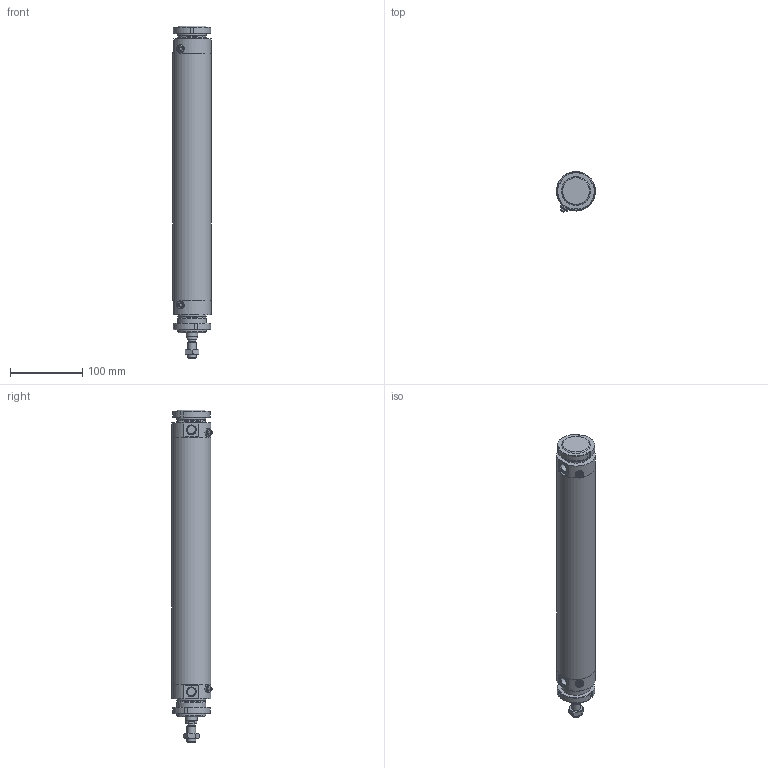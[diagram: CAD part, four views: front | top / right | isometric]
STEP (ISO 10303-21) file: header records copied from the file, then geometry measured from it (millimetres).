
FILE_DESCRIPTION(/* description */ (''),/* implementation_level */ '2;1');
FILE_NAME(/* name */ 'I:\Area Tecnica\Documenti\A-Manieri\_Inventor\12X\12X#C_###_####_#_#\12XBC_050_0300_#_#.stp',/* time_stamp */ '2015-04-28T15:44:02+02:00',/* author */ ('maniean1'),/* organization */ ('Pneumax S.p.A.'),/* preprocessor_version */ 'ST-DEVELOPER v15.2',/* originating_system */ 'Autodesk Inventor 2014',/* authorisation */ '');
FILE_SCHEMA (('AUTOMOTIVE_DESIGN { 1 0 10303 214 3 1 1 }'));
Length unit declared in the file: millimetre
Products named in the file (7): C1250_619-0300; 12X50_606; S12X50_0300; 12X_50_11; 12X50_621; G12X_050_05; 12XBC_050_0300_#_#
Bounding box: 54 x 55.88 x 460 mm (x, y, z)
Volume: 420468.9 mm3; surface area: 175121 mm2
Topology: 7 solids, 7 shells, 124 faces, 282 edges, 182 vertices
Faces by surface type: plane 64, cylinder 31, cone 27, torus 2
Full cylindrical faces by diameter (mm): 5 x2, 10.2 x1, 11 x2, 11.4 x2, 12 x2, 14 x1, 15.6 x1, 16 x1, 38.2 x2, 40 x6, 50 x2, 54 x3
Entity records: 2755 total; most frequent: CARTESIAN_POINT 553, DIRECTION 462, ORIENTED_EDGE 356, AXIS2_PLACEMENT_3D 197, EDGE_CURVE 178, EDGE_LOOP 160, VERTEX_POINT 136, ADVANCED_FACE 103
